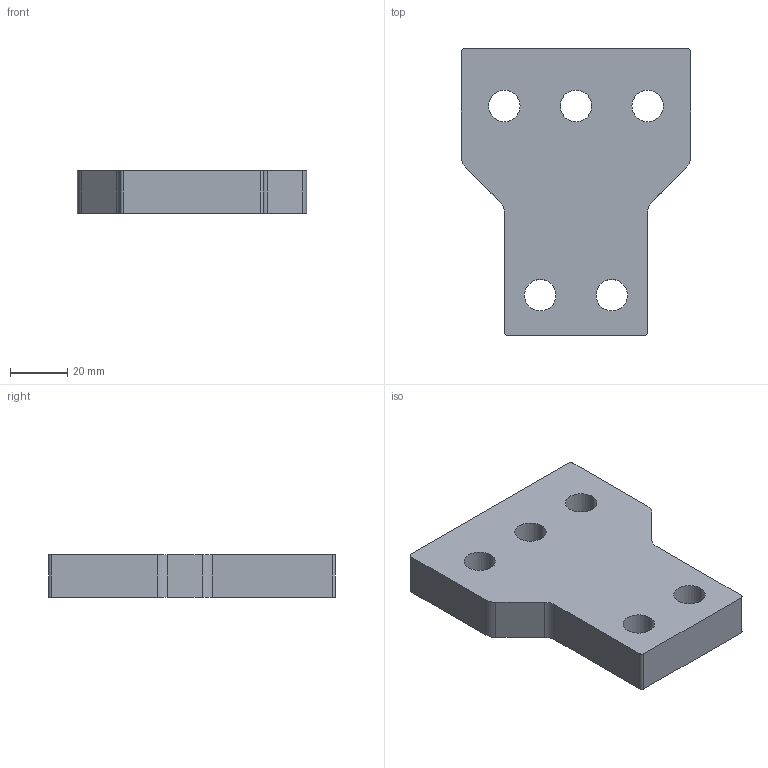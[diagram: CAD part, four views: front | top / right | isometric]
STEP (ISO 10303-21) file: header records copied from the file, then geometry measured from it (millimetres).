
FILE_DESCRIPTION (( 'STEP AP203' ), '1' );
FILE_NAME ('8LD.580.1212-1600ÖÐ¼ä.STEP', '2023-09-21T10:57:41', ( '' ), ( '' ), 'SwSTEP 2.0', 'SolidWorks 2018', '' );
FILE_SCHEMA (( 'CONFIG_CONTROL_DESIGN' ));
Length unit declared in the file: millimetre
Products named in the file (1): 8LD.580.1212-1600笢潔____
Bounding box: 80 x 100 x 15 mm (x, y, z)
Volume: 89234.6 mm3; surface area: 19587.5 mm2
Topology: 1 solids, 1 shells, 28 faces, 78 edges, 52 vertices
Faces by surface type: cylinder 18, plane 10
Entity records: 1015 total; most frequent: DIRECTION 172, CARTESIAN_POINT 159, ORIENTED_EDGE 156, EDGE_CURVE 78, AXIS2_PLACEMENT_3D 65, VERTEX_POINT 52, VECTOR 42, LINE 42
